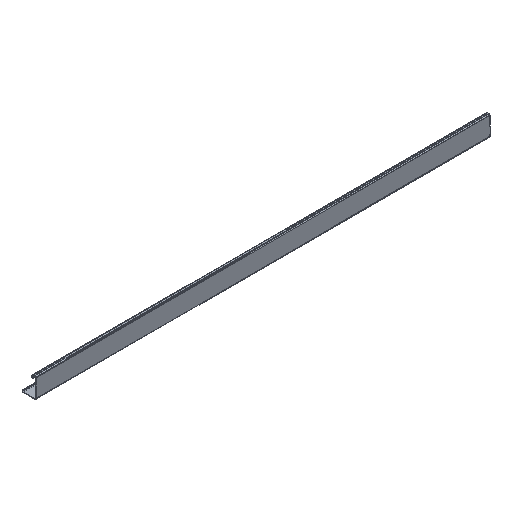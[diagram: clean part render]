
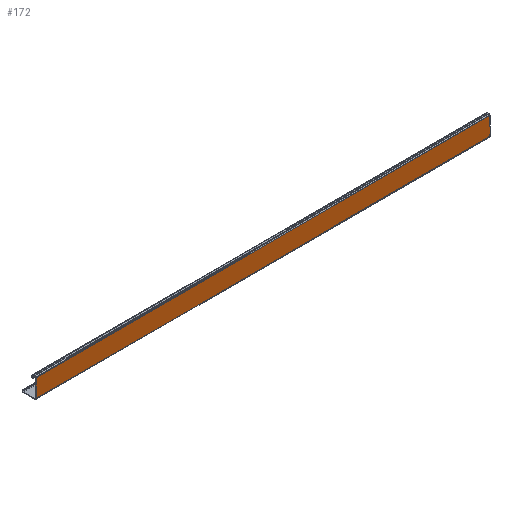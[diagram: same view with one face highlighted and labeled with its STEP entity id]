
A CAD part, isometric view. The second image highlights one B-rep face of the part: STEP entity #172.
In plain terms, the highlighted planar face has unit normal (0, -1, 0).
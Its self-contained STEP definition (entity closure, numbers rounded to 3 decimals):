
#9 = ORIENTED_EDGE ( 'NONE', *, *, #85, .T. ) ;
#19 = DIRECTION ( 'NONE',  ( 0., 0., 1. ) ) ;
#85 = EDGE_CURVE ( 'NONE', #175, #793, #654, .T. ) ;
#93 = ORIENTED_EDGE ( 'NONE', *, *, #293, .F. ) ;
#137 = PLANE ( 'NONE',  #368 ) ;
#172 = ADVANCED_FACE ( 'NONE', ( #350 ), #137, .F. ) ;
#175 = VERTEX_POINT ( 'NONE', #410 ) ;
#181 = CARTESIAN_POINT ( 'NONE',  ( 0., -15.373, -20. ) ) ;
#209 = DIRECTION ( 'NONE',  ( 0., 1., 0. ) ) ;
#265 = ORIENTED_EDGE ( 'NONE', *, *, #810, .F. ) ;
#290 = CARTESIAN_POINT ( 'NONE',  ( 1000., -15.373, 20. ) ) ;
#293 = EDGE_CURVE ( 'NONE', #608, #380, #765, .T. ) ;
#305 = VECTOR ( 'NONE', #828, 1000. ) ;
#350 = FACE_OUTER_BOUND ( 'NONE', #535, .T. ) ;
#368 = AXIS2_PLACEMENT_3D ( 'NONE', #607, #209, #19 ) ;
#370 = DIRECTION ( 'NONE',  ( 0., 0., -1. ) ) ;
#380 = VERTEX_POINT ( 'NONE', #782 ) ;
#410 = CARTESIAN_POINT ( 'NONE',  ( 0., -15.373, 20. ) ) ;
#412 = CARTESIAN_POINT ( 'NONE',  ( 1000., -15.373, 20. ) ) ;
#463 = DIRECTION ( 'NONE',  ( 0., 0., -1. ) ) ;
#471 = LINE ( 'NONE', #685, #305 ) ;
#523 = CARTESIAN_POINT ( 'NONE',  ( 1000., -15.373, -20. ) ) ;
#535 = EDGE_LOOP ( 'NONE', ( #9, #265, #93, #735 ) ) ;
#545 = EDGE_CURVE ( 'NONE', #608, #175, #471, .T. ) ;
#570 = LINE ( 'NONE', #523, #719 ) ;
#586 = DIRECTION ( 'NONE',  ( -1., 0., 0. ) ) ;
#607 = CARTESIAN_POINT ( 'NONE',  ( 1000., -15.373, 20. ) ) ;
#608 = VERTEX_POINT ( 'NONE', #412 ) ;
#643 = CARTESIAN_POINT ( 'NONE',  ( 0., -15.373, 20. ) ) ;
#654 = LINE ( 'NONE', #643, #778 ) ;
#685 = CARTESIAN_POINT ( 'NONE',  ( 1000., -15.373, 20. ) ) ;
#704 = VECTOR ( 'NONE', #370, 1000. ) ;
#719 = VECTOR ( 'NONE', #586, 1000. ) ;
#735 = ORIENTED_EDGE ( 'NONE', *, *, #545, .T. ) ;
#765 = LINE ( 'NONE', #290, #704 ) ;
#778 = VECTOR ( 'NONE', #463, 1000. ) ;
#782 = CARTESIAN_POINT ( 'NONE',  ( 1000., -15.373, -20. ) ) ;
#793 = VERTEX_POINT ( 'NONE', #181 ) ;
#810 = EDGE_CURVE ( 'NONE', #380, #793, #570, .T. ) ;
#828 = DIRECTION ( 'NONE',  ( -1., 0., 0. ) ) ;
